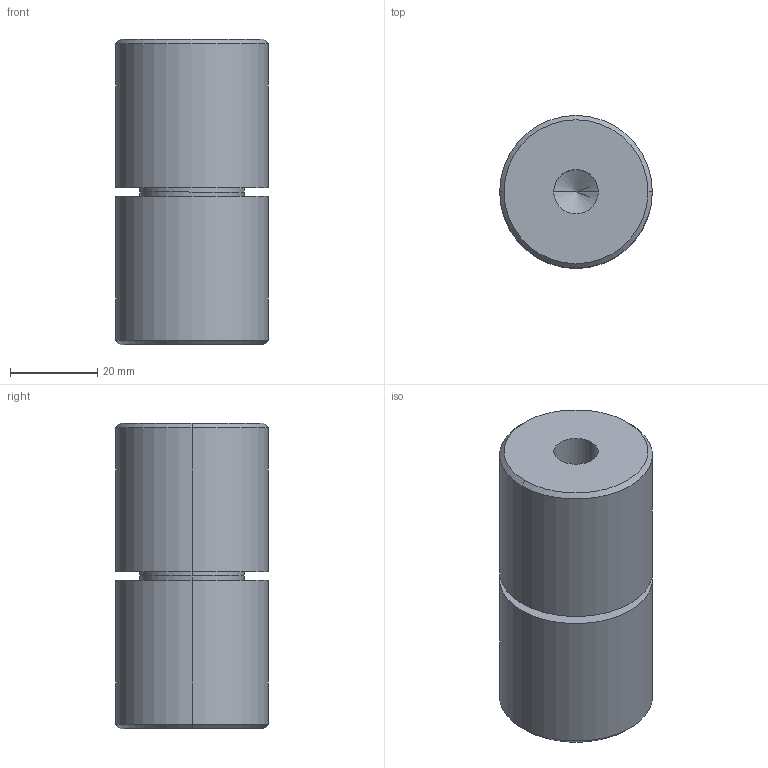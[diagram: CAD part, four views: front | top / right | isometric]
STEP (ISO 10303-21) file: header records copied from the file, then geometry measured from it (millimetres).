
FILE_DESCRIPTION (( 'STEP AP214' ), '1' );
FILE_NAME ('TPN35-3.STEP', '2024-05-28T22:07:40', ( '' ), ( '' ), 'SwSTEP 2.0', 'SolidWorks 2017', '' );
FILE_SCHEMA (( 'AUTOMOTIVE_DESIGN' ));
Length unit declared in the file: millimetre
Products named in the file (3): TPN35-3; TPN35-3_F; TPN35-3_M
Assembly tree (2 placements, depth 2):
  TPN35-3
    TPN35-3_M
    TPN35-3_F
Bounding box: 35 x 35 x 70 mm (x, y, z)
Volume: 61359 mm3; surface area: 14891.5 mm2
Topology: 2 solids, 2 shells, 32 faces, 64 edges, 37 vertices
Faces by surface type: cylinder 12, cone 12, plane 6, torus 2
Entity records: 978 total; most frequent: DIRECTION 174, CARTESIAN_POINT 136, ORIENTED_EDGE 124, AXIS2_PLACEMENT_3D 75, EDGE_CURVE 62, CIRCLE 38, VERTEX_POINT 37, EDGE_LOOP 37
